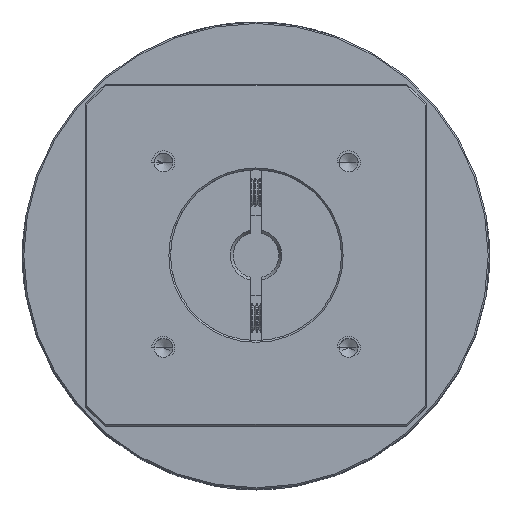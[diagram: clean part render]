
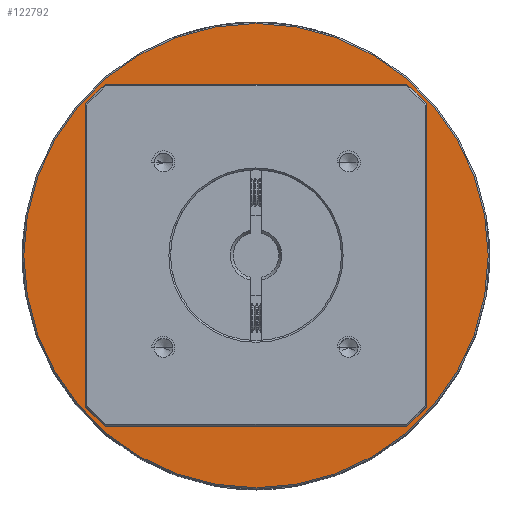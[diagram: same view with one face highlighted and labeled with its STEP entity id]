
A CAD part, top view. The second image highlights one B-rep face of the part: STEP entity #122792.
In plain terms, the highlighted planar face has unit normal (0, 0, 1).
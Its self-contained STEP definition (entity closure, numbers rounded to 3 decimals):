
#8361 = CARTESIAN_POINT ( 'NONE',  ( -41.575, 75.108, -58.735 ) ) ;
#10730 = FACE_OUTER_BOUND ( 'NONE', #55246, .T. ) ;
#10853 = CARTESIAN_POINT ( 'NONE',  ( -0.825, 75.108, -58.735 ) ) ;
#18035 = DIRECTION ( 'NONE',  ( 0., 0., 1. ) ) ;
#18418 = PLANE ( 'NONE',  #19856 ) ;
#18582 = AXIS2_PLACEMENT_3D ( 'NONE', #65539, #73974, #45746 ) ;
#19411 = CIRCLE ( 'NONE', #40311, 40.75 ) ;
#19856 = AXIS2_PLACEMENT_3D ( 'NONE', #95994, #18035, #124519 ) ;
#21697 = EDGE_CURVE ( 'NONE', #69088, #22591, #91478, .T. ) ;
#22369 = CIRCLE ( 'NONE', #88639, 40.75 ) ;
#22591 = VERTEX_POINT ( 'NONE', #65120 ) ;
#31111 = ORIENTED_EDGE ( 'NONE', *, *, #37607, .F. ) ;
#34804 = FACE_BOUND ( 'NONE', #53776, .T. ) ;
#37607 = EDGE_CURVE ( 'NONE', #22591, #69088, #50898, .T. ) ;
#38320 = DIRECTION ( 'NONE',  ( 1., 0., 0. ) ) ;
#40311 = AXIS2_PLACEMENT_3D ( 'NONE', #62429, #101158, #72510 ) ;
#41987 = EDGE_CURVE ( 'NONE', #119803, #95580, #19411, .T. ) ;
#42982 = ORIENTED_EDGE ( 'NONE', *, *, #77616, .T. ) ;
#45746 = DIRECTION ( 'NONE',  ( 1., 0., 0. ) ) ;
#50898 = CIRCLE ( 'NONE', #88829, 30. ) ;
#53776 = EDGE_LOOP ( 'NONE', ( #31111, #55922 ) ) ;
#55246 = EDGE_LOOP ( 'NONE', ( #60391, #42982 ) ) ;
#55922 = ORIENTED_EDGE ( 'NONE', *, *, #21697, .F. ) ;
#60391 = ORIENTED_EDGE ( 'NONE', *, *, #41987, .T. ) ;
#62429 = CARTESIAN_POINT ( 'NONE',  ( -41.575, 75.108, -58.735 ) ) ;
#65039 = CARTESIAN_POINT ( 'NONE',  ( -82.325, 75.108, -58.735 ) ) ;
#65120 = CARTESIAN_POINT ( 'NONE',  ( -71.575, 75.108, -58.735 ) ) ;
#65539 = CARTESIAN_POINT ( 'NONE',  ( -41.575, 75.108, -58.735 ) ) ;
#67631 = DIRECTION ( 'NONE',  ( 1., 0., 0. ) ) ;
#69088 = VERTEX_POINT ( 'NONE', #87883 ) ;
#72510 = DIRECTION ( 'NONE',  ( 1., 0., 0. ) ) ;
#73974 = DIRECTION ( 'NONE',  ( 0., 0., 1. ) ) ;
#77616 = EDGE_CURVE ( 'NONE', #95580, #119803, #22369, .T. ) ;
#87883 = CARTESIAN_POINT ( 'NONE',  ( -11.575, 75.108, -58.735 ) ) ;
#88639 = AXIS2_PLACEMENT_3D ( 'NONE', #8361, #96051, #38320 ) ;
#88829 = AXIS2_PLACEMENT_3D ( 'NONE', #96316, #105136, #67631 ) ;
#91478 = CIRCLE ( 'NONE', #18582, 30. ) ;
#95580 = VERTEX_POINT ( 'NONE', #10853 ) ;
#95994 = CARTESIAN_POINT ( 'NONE',  ( -41.575, 75.108, -58.735 ) ) ;
#96051 = DIRECTION ( 'NONE',  ( 0., 0., 1. ) ) ;
#96316 = CARTESIAN_POINT ( 'NONE',  ( -41.575, 75.108, -58.735 ) ) ;
#101158 = DIRECTION ( 'NONE',  ( 0., 0., 1. ) ) ;
#105136 = DIRECTION ( 'NONE',  ( 0., 0., 1. ) ) ;
#119803 = VERTEX_POINT ( 'NONE', #65039 ) ;
#122792 = ADVANCED_FACE ( 'NONE', ( #34804, #10730 ), #18418, .T. ) ;
#124519 = DIRECTION ( 'NONE',  ( 1., 0., 0. ) ) ;
